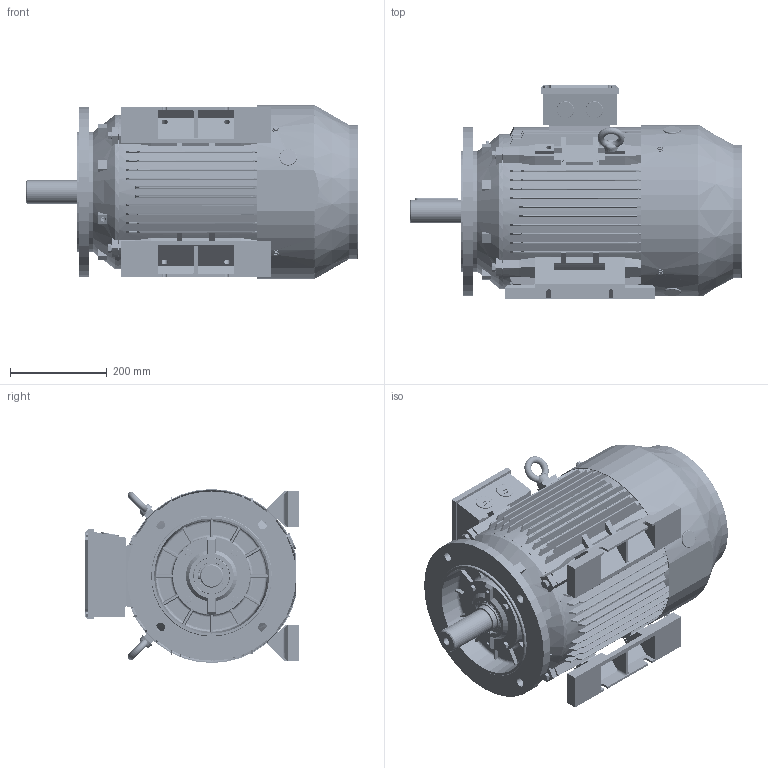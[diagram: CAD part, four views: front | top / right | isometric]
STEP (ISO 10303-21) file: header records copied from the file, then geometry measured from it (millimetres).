
FILE_DESCRIPTION (( 'STEP AP203' ), '1' );
FILE_NAME ('TC 180M B35外形图.STEP', '2014-09-04T09:04:57', ( '微软用户' ), ( '微软中国' ), 'SwSTEP 2.0', 'SolidWorks 2008', '' );
FILE_SCHEMA (( 'CONFIG_CONTROL_DESIGN' ));
Products named in the file (28): TC 180 B3 后端盖_默认; 平键14-9-90_默认; TC 180无轴转子_默认; TC 180 轴承外盖DE_默认; TC 160-180接线盒盖_默认; M10-35_默认; 10_默认; 扣塞_默认; M6-10_默认; TC 180M B35俋倛芞; TC 180M B5机座_默认; TC 180M 底脚_默认; TC 180 轴承外盖NDE_默认; TC 180M转子_默认; TC 180M 轴_默认; 6311_默认; TC 180 轴承内盖_默认; IE2 180-4P风叶_默认; TC 180风罩_默认; TC 160-180接线盒座_默认; 8_默认; M8-65_默认; 油封55-75-8_默认; 铜油嘴_默认; 螺塞M32_默认; M6-20_默认; 吊环M12_默认; TC 180 B5 前端盖_默认
Assembly tree (53 placements, depth 3):
  TC 180M B35俋倛芞
    TC 180 B3 后端盖_默认
    M10-35_默认  x4
    M8-65_默认  x4
    TC 160-180接线盒座_默认
    螺塞M32_默认  x2
    TC 180 B5 前端盖_默认
    铜油嘴_默认  x2
    TC 180 轴承外盖DE_默认
    10_默认  x4
    TC 180M转子_默认
      6311_默认  x2
      平键14-9-90_默认
      TC 180M 轴_默认
      TC 180无轴转子_默认
    TC 180 轴承内盖_默认  x2
    油封55-75-8_默认  x2
    M6-10_默认  x4
    M6-20_默认  x4
    TC 180M 底脚_默认  x2
    TC 160-180接线盒盖_默认
    扣塞_默认  x2
    吊环M12_默认  x2
    TC 180风罩_默认
    8_默认  x4
    TC 180M B5机座_默认
    IE2 180-4P风叶_默认
    TC 180 轴承外盖NDE_默认
Bounding box: 687 x 441 x 359.96 mm (x, y, z)
Volume: 17261258 mm3; surface area: 3544200.3 mm2
Topology: 54 solids, 54 shells, 7037 faces, 20029 edges, 13128 vertices
Faces by surface type: plane 3349, cylinder 2595, cone 444, torus 326, bspline 211, sphere 112
Entity records: 224524 total; most frequent: CARTESIAN_POINT 57802, ORIENTED_EDGE 34952, DIRECTION 33372, EDGE_CURVE 17476, AXIS2_PLACEMENT_3D 11747, VERTEX_POINT 11478, VECTOR 9878, LINE 9878
